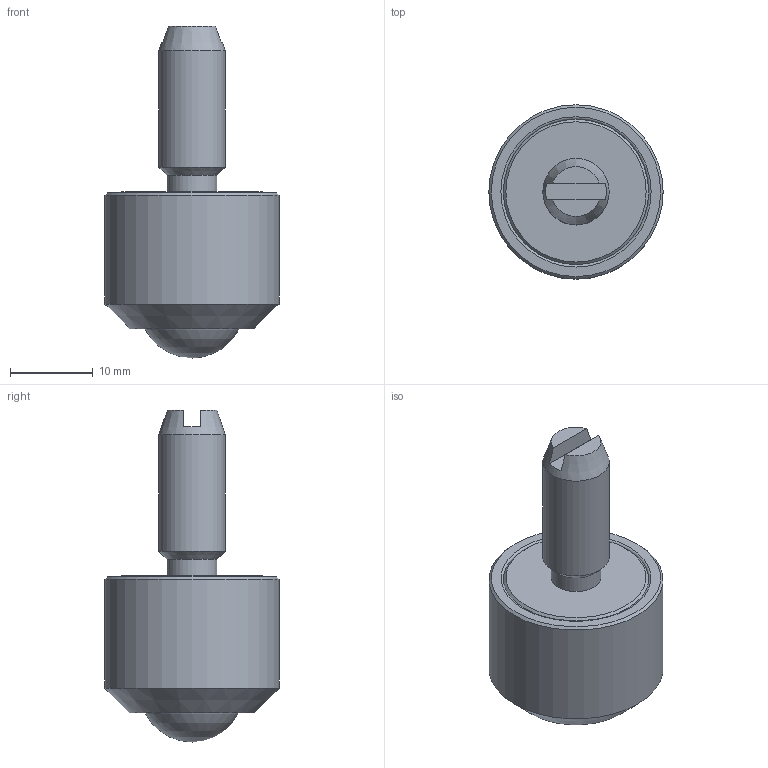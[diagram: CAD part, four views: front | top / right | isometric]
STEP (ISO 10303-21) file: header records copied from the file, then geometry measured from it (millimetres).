
FILE_DESCRIPTION(/* description */ (''),/* implementation_level */ '2;1');
FILE_NAME(/* name */ 'Z:\80-CAD共有ファイル\製品3D\X2\30C730FC30BF\X0\\13-IK-NM\IK-13NM.stp',/* time_stamp */ '2015-01-07T09:42:53+09:00',/* author */ ('yamaki'),/* organization */ (''),/* preprocessor_version */ 'ST-DEVELOPER v15.6',/* originating_system */ 'Autodesk Inventor 2015',/* authorisation */ '');
FILE_SCHEMA (('AUTOMOTIVE_DESIGN { 1 0 10303 214 3 1 1 }'));
Length unit declared in the file: millimetre
Products named in the file (1): 1313AA
Bounding box: 21 x 21 x 40 mm (x, y, z)
Volume: 6502.7 mm3; surface area: 2397.6 mm2
Topology: 1 solids, 1 shells, 22 faces, 44 edges, 27 vertices
Faces by surface type: plane 9, cone 6, cylinder 4, torus 2, sphere 1
Full cylindrical faces by diameter (mm): 6 x1, 8 x1, 11.9 x1, 21 x1
Entity records: 529 total; most frequent: DIRECTION 90, CARTESIAN_POINT 83, ORIENTED_EDGE 56, AXIS2_PLACEMENT_3D 43, EDGE_LOOP 38, EDGE_CURVE 28, VERTEX_POINT 24, STYLED_ITEM 23
